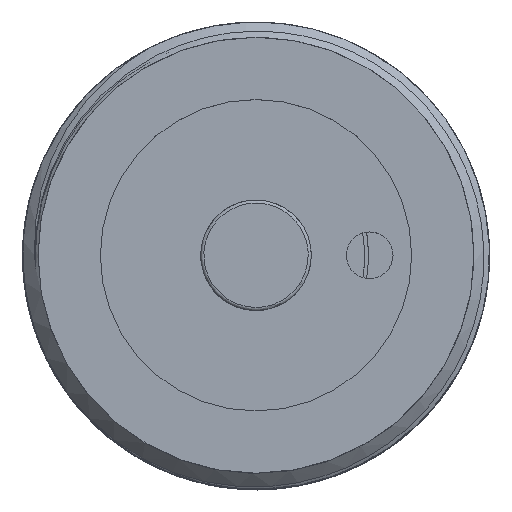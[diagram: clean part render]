
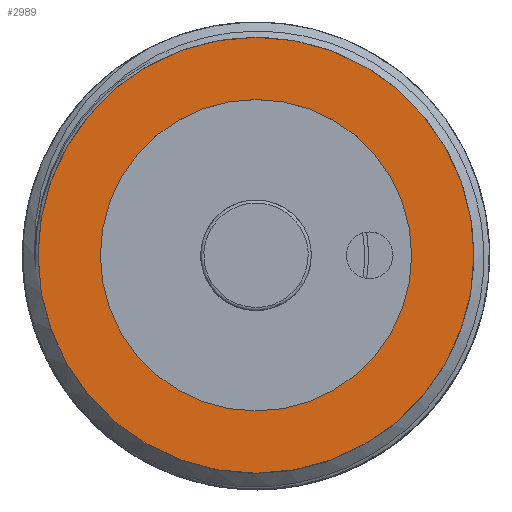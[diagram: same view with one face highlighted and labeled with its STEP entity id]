
A CAD part, top view. The second image highlights one B-rep face of the part: STEP entity #2989.
In plain terms, the highlighted planar face has unit normal (0, 0, 1).
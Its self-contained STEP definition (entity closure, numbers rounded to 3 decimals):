
#1447=PLANE('',#6317);
#2989=ADVANCED_FACE('',(#3290,#3291),#1447,.F.);
#3290=FACE_BOUND('',#3429,.T.);
#3291=FACE_BOUND('',#3430,.T.);
#3429=EDGE_LOOP('',(#3891));
#3430=EDGE_LOOP('',(#3892));
#3891=ORIENTED_EDGE('',*,*,#5600,.F.);
#3892=ORIENTED_EDGE('',*,*,#5602,.F.);
#5111=VERTEX_POINT('',#12313);
#5113=VERTEX_POINT('',#12318);
#5600=EDGE_CURVE('',#5111,#5111,#6208,.T.);
#5602=EDGE_CURVE('',#5113,#5113,#6210,.T.);
#6208=CIRCLE('',#6312,10.);
#6210=CIRCLE('',#6315,14.);
#6312=AXIS2_PLACEMENT_3D('',#12312,#6676,#6677);
#6315=AXIS2_PLACEMENT_3D('',#12317,#6682,#6683);
#6317=AXIS2_PLACEMENT_3D('',#12320,#6686,#6687);
#6676=DIRECTION('',(0.,0.,1.));
#6677=DIRECTION('',(0.,-1.,0.));
#6682=DIRECTION('',(0.,0.,-1.));
#6683=DIRECTION('',(0.,-1.,0.));
#6686=DIRECTION('',(0.,0.,-1.));
#6687=DIRECTION('',(0.,1.,0.));
#12312=CARTESIAN_POINT('',(16.445,17.291,1.25));
#12313=CARTESIAN_POINT('',(16.445,7.291,1.25));
#12317=CARTESIAN_POINT('',(16.445,17.291,1.25));
#12318=CARTESIAN_POINT('',(16.445,3.291,1.25));
#12320=CARTESIAN_POINT('',(16.445,17.291,1.25));
